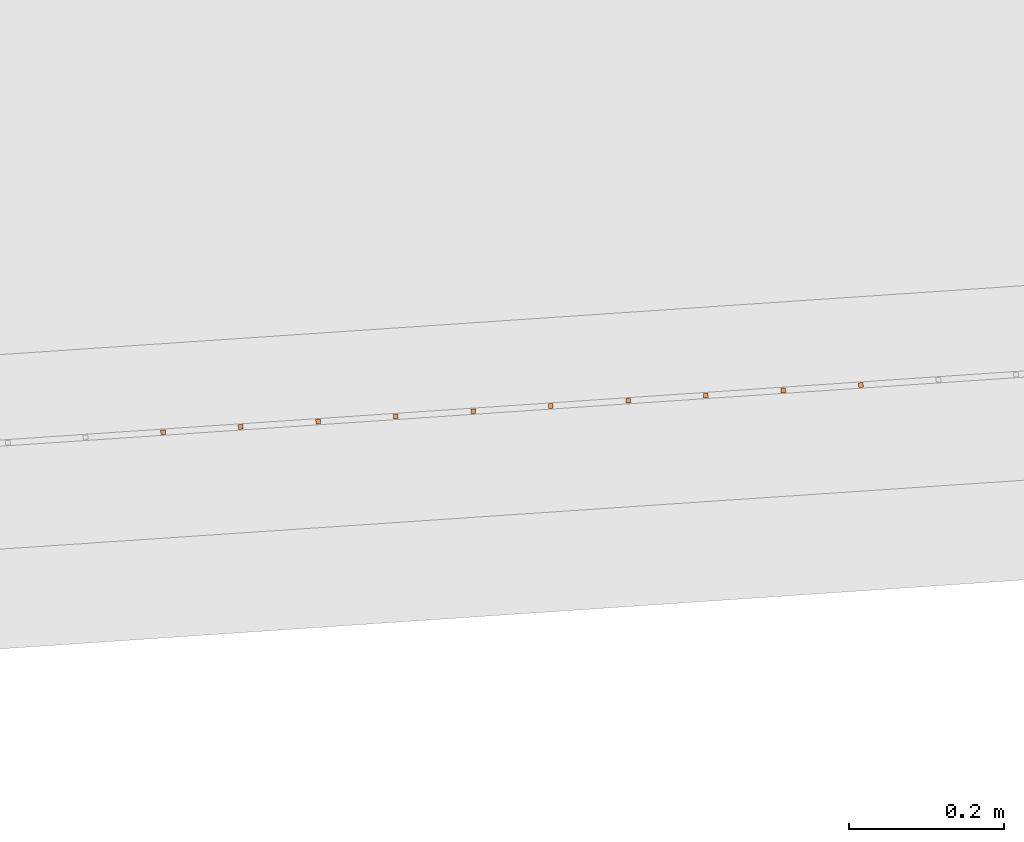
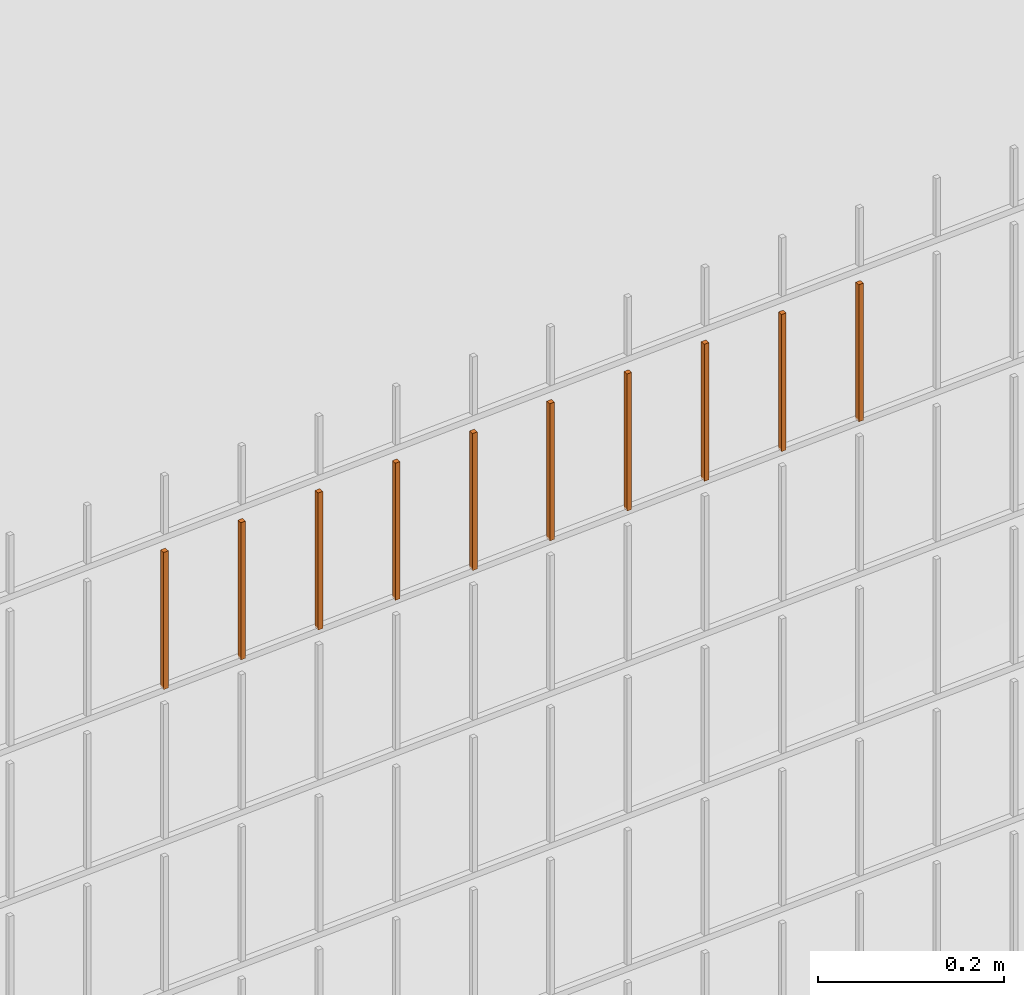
# One storey, part 150 of 1809: 10 proxies, 1 element without a shape of its own.
"""IFC2X3 building model written with IfcOpenShell, lengths in millimetres."""

from ifc_helpers import new_model, entity, si_unit, converted_unit, derived_unit, money_unit, direction, frame, origin_with_axes, place, context, subcontext, project, spatial, faceted_brep, source, transform, mapped, material, type_object, element, aggregate, save


model = new_model("IFC2X3")

# Units and contexts
model_context = context("Model", 3, precision=0.01, world=origin_with_axes(), true_north=direction((0.0, 1.0)))
body_context = subcontext(model_context, "Body", "Model", "MODEL_VIEW")
ifc_project = project(units=[si_unit("LENGTHUNIT", "METRE", prefix="MILLI"), si_unit("AREAUNIT", "SQUARE_METRE"), si_unit("VOLUMEUNIT", "CUBIC_METRE"), converted_unit("PLANEANGLEUNIT", "DEGREE", entity("IfcPlaneAngleMeasure", 0.0174532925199), si_unit("PLANEANGLEUNIT", "RADIAN"), dimensions=[0, 0, 0, 0, 0, 0, 0]), si_unit("SOLIDANGLEUNIT", "STERADIAN"), money_unit("EUR"), converted_unit("TIMEUNIT", "Year", entity("IfcTimeMeasure", 31556926.0), si_unit("TIMEUNIT", "SECOND"), dimensions=[0, 0, 1, 0, 0, 0, 0]), si_unit("MASSUNIT", "GRAM", prefix="KILO"), si_unit("THERMODYNAMICTEMPERATUREUNIT", "DEGREE_CELSIUS"), si_unit("LUMINOUSINTENSITYUNIT", "LUMEN"), si_unit("ENERGYUNIT", "JOULE", prefix="MEGA"), derived_unit("THERMALCONDUCTANCEUNIT", [(si_unit("POWERUNIT", "WATT"), 1), (si_unit("LENGTHUNIT", "METRE"), -1), (si_unit("THERMODYNAMICTEMPERATUREUNIT", "KELVIN"), -1)]), derived_unit("SPECIFICHEATCAPACITYUNIT", [(si_unit("ENERGYUNIT", "JOULE"), 1), (si_unit("MASSUNIT", "GRAM", prefix="KILO"), -1), (si_unit("THERMODYNAMICTEMPERATUREUNIT", "KELVIN"), -1)]), derived_unit("MASSDENSITYUNIT", [(si_unit("MASSUNIT", "GRAM", prefix="KILO"), 1), (si_unit("VOLUMEUNIT", "CUBIC_METRE"), -1)])], contexts=[model_context])

# Site, building, storey
site_placement = place(None, origin_with_axes())
site = spatial("IfcSite", under=ifc_project, at=site_placement, Name="Politse- ja Piirivalveameti ning Päästeameti ühishoone", CompositionType="ELEMENT")
building_placement = place(site_placement, origin_with_axes())
building = spatial("IfcBuilding", under=site, at=building_placement, Name="Politse- ja Piirivalveameti ning Päästeameti ühishoone", CompositionType="ELEMENT")
storey_placement = place(building_placement, origin_with_axes())
storey = spatial("IfcBuildingStorey", under=building, at=storey_placement, Name="Esimene korrus", CompositionType="ELEMENT", Elevation=0.0)

# Proxies
building_element_proxy_type_1 = type_object("IfcBuildingElementProxyType", Name="Railing Type", PredefinedType="NOTDEFINED")
proxy_1_placement = place(storey_placement, frame((89252.001212, -29183.4766571, 203.661247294), z_axis=(0.0, 0.0, 1.0), x_axis=(1.0, 0.0, 0.0)))
proxy_1 = element("IfcBuildingElementProxy", 1, at=proxy_1_placement, inside=storey, type_object=building_element_proxy_type_1, Name="PIIRDEAED")
ifc_material = material(Name="ET-03_Raud")
building_element_proxy_type_2 = type_object("IfcBuildingElementProxyType", Name="IfcBuildingElementProxy", PredefinedType="NOTDEFINED")
shared_shape_1 = source(origin_with_axes(), body_context, "Body", "Brep", [
    faceted_brep([(3.0, 3.0, -0.000752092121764), (-3.0, 3.0, -0.000752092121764), (-3.0, 3.0, 179.99926046), (3.0, 3.0, 179.99926046), (3.0, -3.0, 0.000752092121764), (-3.0, -3.0, 0.000752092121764), (-3.0, -3.0, 180.000764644), (3.0, -3.0, 180.000764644)], [[[0, 1, 2, 3]], [[0, 4, 5, 1]], [[1, 5, 6, 2]], [[3, 2, 6, 7]], [[4, 0, 3, 7]], [[5, 4, 7, 6]]]),
])
proxy_2_placement = place(proxy_1_placement, frame((-84134.9737938, -22980.7747274, 1806.09390628), z_axis=(0.0, 0.0, 1.0), x_axis=(1.0, 0.0, 0.0)))
proxy_2 = element("IfcBuildingElementProxy", 2, at=proxy_2_placement, type_object=building_element_proxy_type_2, material=ifc_material, Name="BALUSTER - 001", context=body_context, shape_type="MappedRepresentation", body=[
    mapped(shared_shape_1, transform((0.0, 0.0, 0.0), x_axis=(-0.0673926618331, 0.997726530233, 0.0), y_axis=(-0.997726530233, -0.0673926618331, 0.0), z_axis=(0.0, 0.0, 1.0))),
])
shared_shape_2 = source(origin_with_axes(), body_context, "Body", "Brep", [
    faceted_brep([(3.0, 3.0, -0.000752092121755), (-3.0, 3.0, -0.000752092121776), (-3.0, 3.0, 179.99926046), (3.0, 3.0, 179.99926046), (3.0, -3.0, 0.000752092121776), (-3.0, -3.0, 0.000752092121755), (-3.0, -3.0, 180.000764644), (3.0, -3.0, 180.000764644)], [[[0, 1, 2, 3]], [[0, 4, 5, 1]], [[1, 5, 6, 2]], [[3, 2, 6, 7]], [[4, 0, 3, 7]], [[5, 4, 7, 6]]]),
])
proxy_3_placement = place(proxy_1_placement, frame((-83436.5652227, -22933.5998642, 1806.26939445), z_axis=(0.0, 0.0, 1.0), x_axis=(1.0, 0.0, 0.0)))
proxy_3 = element("IfcBuildingElementProxy", 3, at=proxy_3_placement, type_object=building_element_proxy_type_2, material=ifc_material, Name="BALUSTER - 001", context=body_context, shape_type="MappedRepresentation", body=[
    mapped(shared_shape_2, transform((0.0, 0.0, 0.0), x_axis=(-0.0673926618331, 0.997726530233, 0.0), y_axis=(-0.997726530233, -0.0673926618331, 0.0), z_axis=(0.0, 0.0, 1.0))),
])
shared_shape_3 = source(origin_with_axes(), body_context, "Body", "Brep", [
    faceted_brep([(3.0, 3.0, -0.000752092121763), (-3.0, 3.0, -0.000752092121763), (-3.0, 3.0, 179.99926046), (3.0, 3.0, 179.99926046), (3.0, -3.0, 0.000752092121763), (-3.0, -3.0, 0.000752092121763), (-3.0, -3.0, 180.000764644), (3.0, -3.0, 180.000764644)], [[[0, 1, 2, 3]], [[0, 4, 5, 1]], [[1, 5, 6, 2]], [[3, 2, 6, 7]], [[4, 0, 3, 7]], [[5, 4, 7, 6]]]),
])
proxy_4_placement = place(proxy_1_placement, frame((-83735.8831817, -22953.8176627, 1806.19418523), z_axis=(0.0, 0.0, 1.0), x_axis=(1.0, 0.0, 0.0)))
proxy_4 = element("IfcBuildingElementProxy", 4, at=proxy_4_placement, type_object=building_element_proxy_type_2, material=ifc_material, Name="BALUSTER - 001", context=body_context, shape_type="MappedRepresentation", body=[
    mapped(shared_shape_3, transform((0.0, 0.0, 0.0), x_axis=(-0.0673926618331, 0.997726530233, 0.0), y_axis=(-0.997726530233, -0.0673926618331, 0.0), z_axis=(0.0, 0.0, 1.0))),
])
shared_shape_4 = source(origin_with_axes(), body_context, "Body", "Brep", [
    faceted_brep([(3.0, 3.0, -0.000752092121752), (-3.0, 3.0, -0.000752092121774), (-3.0, 3.0, 179.99926046), (3.0, 3.0, 179.99926046), (3.0, -3.0, 0.000752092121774), (-3.0, -3.0, 0.000752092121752), (-3.0, -3.0, 180.000764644), (3.0, -3.0, 180.000764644)], [[[0, 1, 2, 3]], [[0, 4, 5, 1]], [[1, 5, 6, 2]], [[3, 2, 6, 7]], [[4, 0, 3, 7]], [[5, 4, 7, 6]]]),
])
proxy_5_placement = place(proxy_1_placement, frame((-83935.4284878, -22967.2961951, 1806.14404576), z_axis=(0.0, 0.0, 1.0), x_axis=(1.0, 0.0, 0.0)))
proxy_5 = element("IfcBuildingElementProxy", 5, at=proxy_5_placement, type_object=building_element_proxy_type_2, material=ifc_material, Name="BALUSTER - 001", context=body_context, shape_type="MappedRepresentation", body=[
    mapped(shared_shape_4, transform((0.0, 0.0, 0.0), x_axis=(-0.0673926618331, 0.997726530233, 0.0), y_axis=(-0.997726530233, -0.0673926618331, 0.0), z_axis=(0.0, 0.0, 1.0))),
])
shared_shape_5 = source(origin_with_axes(), body_context, "Body", "Brep", [
    faceted_brep([(3.0, 3.0, -0.000752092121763), (-3.0, 3.0, -0.000752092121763), (-3.0, 3.0, 179.99926046), (3.0, 3.0, 179.99926046), (3.0, -3.0, 0.000752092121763), (-3.0, -3.0, 0.000752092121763), (-3.0, -3.0, 180.000764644), (3.0, -3.0, 180.000764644)], [[[0, 1, 2, 3]], [[0, 4, 5, 1]], [[1, 5, 6, 2]], [[3, 2, 6, 7]], [[4, 0, 3, 7]], [[5, 4, 7, 6]]]),
])
proxy_6_placement = place(proxy_1_placement, frame((-83636.1105287, -22947.0783965, 1806.21925497), z_axis=(0.0, 0.0, 1.0), x_axis=(1.0, 0.0, 0.0)))
proxy_6 = element("IfcBuildingElementProxy", 6, at=proxy_6_placement, type_object=building_element_proxy_type_2, material=ifc_material, Name="BALUSTER - 001", context=body_context, shape_type="MappedRepresentation", body=[
    mapped(shared_shape_5, transform((0.0, 0.0, 0.0), x_axis=(-0.0673926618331, 0.997726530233, 0.0), y_axis=(-0.997726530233, -0.0673926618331, 0.0), z_axis=(0.0, 0.0, 1.0))),
])
shared_shape_6 = source(origin_with_axes(), body_context, "Body", "Brep", [
    faceted_brep([(3.0, 3.0, -0.000752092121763), (-3.0, 3.0, -0.000752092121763), (-3.0, 3.0, 179.99926046), (3.0, 3.0, 179.99926046), (3.0, -3.0, 0.000752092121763), (-3.0, -3.0, 0.000752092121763), (-3.0, -3.0, 180.000764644), (3.0, -3.0, 180.000764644)], [[[0, 1, 2, 3]], [[0, 4, 5, 1]], [[1, 5, 6, 2]], [[3, 2, 6, 7]], [[4, 0, 3, 7]], [[5, 4, 7, 6]]]),
])
proxy_7_placement = place(proxy_1_placement, frame((-83237.0199166, -22920.1213318, 1806.31953392), z_axis=(0.0, 0.0, 1.0), x_axis=(1.0, 0.0, 0.0)))
proxy_7 = element("IfcBuildingElementProxy", 7, at=proxy_7_placement, type_object=building_element_proxy_type_2, material=ifc_material, Name="BALUSTER - 001", context=body_context, shape_type="MappedRepresentation", body=[
    mapped(shared_shape_6, transform((0.0, 0.0, 0.0), x_axis=(-0.0673926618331, 0.997726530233, 0.0), y_axis=(-0.997726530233, -0.0673926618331, 0.0), z_axis=(0.0, 0.0, 1.0))),
])
proxy_8_placement = place(proxy_1_placement, frame((-84035.2011408, -22974.0354613, 1806.11897602), z_axis=(0.0, 0.0, 1.0), x_axis=(1.0, 0.0, 0.0)))
proxy_8 = element("IfcBuildingElementProxy", 8, at=proxy_8_placement, type_object=building_element_proxy_type_2, material=ifc_material, Name="BALUSTER - 001", context=body_context, shape_type="MappedRepresentation", body=[
    mapped(shared_shape_6, transform((0.0, 0.0, 0.0), x_axis=(-0.0673926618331, 0.997726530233, 0.0), y_axis=(-0.997726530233, -0.0673926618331, 0.0), z_axis=(0.0, 0.0, 1.0))),
])
shared_shape_7 = source(origin_with_axes(), body_context, "Body", "Brep", [
    faceted_brep([(3.0, 3.0, -0.000752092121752), (-3.0, 3.0, -0.000752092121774), (-3.0, 3.0, 179.99926046), (3.0, 3.0, 179.99926046), (3.0, -3.0, 0.000752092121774), (-3.0, -3.0, 0.000752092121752), (-3.0, -3.0, 180.000764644), (3.0, -3.0, 180.000764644)], [[[0, 1, 2, 3]], [[0, 4, 5, 1]], [[1, 5, 6, 2]], [[3, 2, 6, 7]], [[4, 0, 3, 7]], [[5, 4, 7, 6]]]),
])
proxy_9_placement = place(proxy_1_placement, frame((-83835.6558348, -22960.5569289, 1806.1691155), z_axis=(0.0, 0.0, 1.0), x_axis=(1.0, 0.0, 0.0)))
proxy_9 = element("IfcBuildingElementProxy", 9, at=proxy_9_placement, type_object=building_element_proxy_type_2, material=ifc_material, Name="BALUSTER - 001", context=body_context, shape_type="MappedRepresentation", body=[
    mapped(shared_shape_7, transform((0.0, 0.0, 0.0), x_axis=(-0.0673926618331, 0.997726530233, 0.0), y_axis=(-0.997726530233, -0.0673926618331, 0.0), z_axis=(0.0, 0.0, 1.0))),
])
shared_shape_8 = source(origin_with_axes(), body_context, "Body", "Brep", [
    faceted_brep([(3.0, 3.0, -0.000752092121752), (-3.0, 3.0, -0.000752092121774), (-3.0, 3.0, 179.99926046), (3.0, 3.0, 179.99926046), (3.0, -3.0, 0.000752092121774), (-3.0, -3.0, 0.000752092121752), (-3.0, -3.0, 180.000764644), (3.0, -3.0, 180.000764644)], [[[0, 1, 2, 3]], [[0, 4, 5, 1]], [[1, 5, 6, 2]], [[3, 2, 6, 7]], [[4, 0, 3, 7]], [[5, 4, 7, 6]]]),
])
proxy_10_placement = place(proxy_1_placement, frame((-83336.7925696, -22926.860598, 1806.29446418), z_axis=(0.0, 0.0, 1.0), x_axis=(1.0, 0.0, 0.0)))
proxy_10 = element("IfcBuildingElementProxy", 10, at=proxy_10_placement, type_object=building_element_proxy_type_2, material=ifc_material, Name="BALUSTER - 001", context=body_context, shape_type="MappedRepresentation", body=[
    mapped(shared_shape_8, transform((0.0, 0.0, 0.0), x_axis=(-0.0673926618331, 0.997726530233, 0.0), y_axis=(-0.997726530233, -0.0673926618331, 0.0), z_axis=(0.0, 0.0, 1.0))),
])
shared_shape_9 = source(origin_with_axes(), body_context, "Body", "Brep", [
    faceted_brep([(3.0, 3.0, -0.000752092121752), (-3.0, 3.0, -0.000752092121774), (-3.0, 3.0, 179.99926046), (3.0, 3.0, 179.99926046), (3.0, -3.0, 0.000752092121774), (-3.0, -3.0, 0.000752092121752), (-3.0, -3.0, 180.000764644), (3.0, -3.0, 180.000764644)], [[[0, 1, 2, 3]], [[0, 4, 5, 1]], [[1, 5, 6, 2]], [[3, 2, 6, 7]], [[4, 0, 3, 7]], [[5, 4, 7, 6]]]),
])
proxy_11_placement = place(proxy_1_placement, frame((-83536.3378757, -22940.3391303, 1806.24432471), z_axis=(0.0, 0.0, 1.0), x_axis=(1.0, 0.0, 0.0)))
proxy_11 = element("IfcBuildingElementProxy", 11, at=proxy_11_placement, type_object=building_element_proxy_type_2, material=ifc_material, Name="BALUSTER - 001", context=body_context, shape_type="MappedRepresentation", body=[
    mapped(shared_shape_9, transform((0.0, 0.0, 0.0), x_axis=(-0.0673926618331, 0.997726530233, 0.0), y_axis=(-0.997726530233, -0.0673926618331, 0.0), z_axis=(0.0, 0.0, 1.0))),
])
aggregate(proxy_1, [proxy_7, proxy_10, proxy_3, proxy_11, proxy_6, proxy_4, proxy_9, proxy_5, proxy_8, proxy_2])

save(model, "model.ifc")
